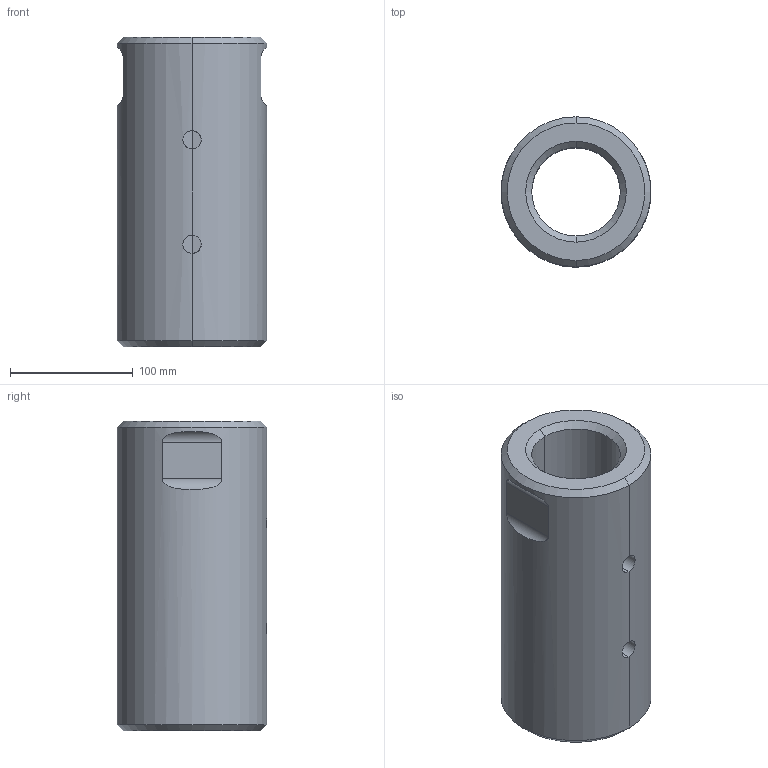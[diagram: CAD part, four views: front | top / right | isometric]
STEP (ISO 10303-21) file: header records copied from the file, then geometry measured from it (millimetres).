
FILE_DESCRIPTION (( 'STEP AP203' ), '1' );
FILE_NAME ('Spannschloss M76.STEP', '2018-02-22T10:03:53', ( 'install' ), ( 'Hewlett-Packard Company' ), 'SwSTEP 2.0', 'SolidWorks 2017', '' );
FILE_SCHEMA (( 'CONFIG_CONTROL_DESIGN' ));
Length unit declared in the file: millimetre
Products named in the file (1): Spannschloss M76
Bounding box: 122 x 122 x 252 mm (x, y, z)
Volume: 1812759.9 mm3; surface area: 170021.8 mm2
Topology: 1 solids, 1 shells, 30 faces, 66 edges, 38 vertices
Faces by surface type: cylinder 16, cone 8, plane 6
Entity records: 1457 total; most frequent: CARTESIAN_POINT 717, DIRECTION 140, ORIENTED_EDGE 132, EDGE_CURVE 66, AXIS2_PLACEMENT_3D 55, VERTEX_POINT 38, EDGE_LOOP 36, FACE_OUTER_BOUND 30
